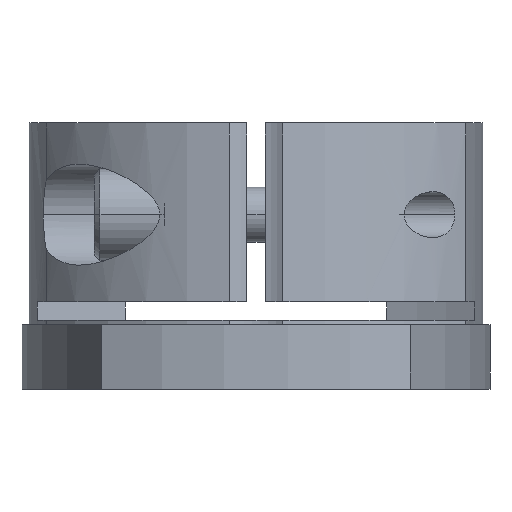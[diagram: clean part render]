
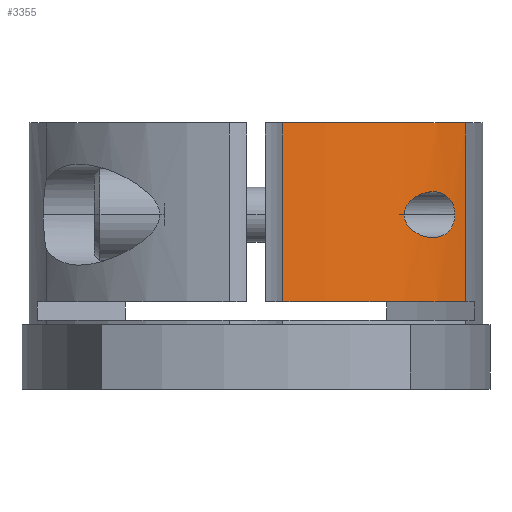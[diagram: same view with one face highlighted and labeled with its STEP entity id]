
A CAD part, front view. The second image highlights one B-rep face of the part: STEP entity #3355.
In plain terms, the highlighted cylindrical face has radius 28.5 mm (diameter 57 mm), a partial arc.
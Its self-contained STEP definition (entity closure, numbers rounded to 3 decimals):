
#535=CARTESIAN_POINT('',(21.679,-18.5,15.5));
#536=VERTEX_POINT('',#535);
#545=CARTESIAN_POINT('',(16.125,-23.5,15.5));
#546=VERTEX_POINT('',#545);
#547=CARTESIAN_POINT('',(16.125,-23.5,15.5));
#548=CARTESIAN_POINT('',(16.125,-23.5,15.686));
#549=CARTESIAN_POINT('',(16.155,-23.479,15.866));
#550=CARTESIAN_POINT('',(16.264,-23.404,16.21));
#551=CARTESIAN_POINT('',(16.343,-23.349,16.372));
#552=CARTESIAN_POINT('',(16.535,-23.214,16.674));
#553=CARTESIAN_POINT('',(16.647,-23.133,16.812));
#554=CARTESIAN_POINT('',(16.888,-22.958,17.061));
#555=CARTESIAN_POINT('',(17.016,-22.863,17.172));
#556=CARTESIAN_POINT('',(17.456,-22.532,17.504));
#557=CARTESIAN_POINT('',(17.819,-22.247,17.692));
#558=CARTESIAN_POINT('',(18.372,-21.789,17.878));
#559=CARTESIAN_POINT('',(18.558,-21.631,17.924));
#560=CARTESIAN_POINT('',(18.922,-21.314,17.985));
#561=CARTESIAN_POINT('',(19.099,-21.155,18.0));
#562=CARTESIAN_POINT('',(19.423,-20.858,18.0));
#563=CARTESIAN_POINT('',(19.583,-20.708,17.988));
#564=CARTESIAN_POINT('',(19.902,-20.401,17.932));
#565=CARTESIAN_POINT('',(20.061,-20.245,17.889));
#566=CARTESIAN_POINT('',(20.368,-19.936,17.768));
#567=CARTESIAN_POINT('',(20.516,-19.784,17.691));
#568=CARTESIAN_POINT('',(20.791,-19.494,17.503));
#569=CARTESIAN_POINT('',(20.918,-19.357,17.393));
#570=CARTESIAN_POINT('',(21.125,-19.132,17.167));
#571=CARTESIAN_POINT('',(21.213,-19.033,17.051));
#572=CARTESIAN_POINT('',(21.373,-18.853,16.791));
#573=CARTESIAN_POINT('',(21.444,-18.773,16.647));
#574=CARTESIAN_POINT('',(21.56,-18.64,16.341));
#575=CARTESIAN_POINT('',(21.605,-18.587,16.177));
#576=CARTESIAN_POINT('',(21.665,-18.517,15.841));
#577=CARTESIAN_POINT('',(21.679,-18.5,15.669));
#578=CARTESIAN_POINT('',(21.679,-18.5,15.5));
#579=B_SPLINE_CURVE_WITH_KNOTS('',3,(#547,#548,#549,#550,#551,#552,#553,#554,#555,#556,#557,#558,#559,#560,#561,#562,#563,#564,#565,#566,#567,#568,#569,#570,#571,#572,#573,#574,#575,#576,#577,#578),.UNSPECIFIED.,.F.,.U.,(4,2,2,2,2,2,2,2,2,2,2,2,2,2,2,4),(9.511,10.068,10.625,11.182,11.739,13.112,13.798,14.485,15.115,15.746,16.377,17.007,17.515,18.023,18.531,19.039),.UNSPECIFIED.);
#580=EDGE_CURVE('',#546,#536,#579,.T.);
#2267=CARTESIAN_POINT('',(22.845,-17.039,25.5));
#2268=VERTEX_POINT('',#2267);
#2276=CARTESIAN_POINT('',(22.845,-17.039,6.0));
#2277=VERTEX_POINT('',#2276);
#2278=CARTESIAN_POINT('',(22.845,-17.039,6.0));
#2279=DIRECTION('',(0.0,0.0,1.0));
#2280=VECTOR('',#2279,19.5);
#2281=LINE('',#2278,#2280);
#2282=EDGE_CURVE('',#2277,#2268,#2281,.T.);
#2436=CARTESIAN_POINT('',(21.679,-18.5,15.5));
#2437=CARTESIAN_POINT('',(21.679,-18.5,15.347));
#2438=CARTESIAN_POINT('',(21.667,-18.514,15.19));
#2439=CARTESIAN_POINT('',(21.617,-18.573,14.881));
#2440=CARTESIAN_POINT('',(21.58,-18.617,14.73));
#2441=CARTESIAN_POINT('',(21.482,-18.729,14.443));
#2442=CARTESIAN_POINT('',(21.422,-18.798,14.307));
#2443=CARTESIAN_POINT('',(21.286,-18.952,14.059));
#2444=CARTESIAN_POINT('',(21.21,-19.036,13.947));
#2445=CARTESIAN_POINT('',(21.016,-19.252,13.703));
#2446=CARTESIAN_POINT('',(20.884,-19.395,13.574));
#2447=CARTESIAN_POINT('',(20.597,-19.699,13.357));
#2448=CARTESIAN_POINT('',(20.441,-19.861,13.268));
#2449=CARTESIAN_POINT('',(20.117,-20.19,13.128));
#2450=CARTESIAN_POINT('',(19.947,-20.357,13.078));
#2451=CARTESIAN_POINT('',(19.606,-20.686,13.014));
#2452=CARTESIAN_POINT('',(19.434,-20.847,13.0));
#2453=CARTESIAN_POINT('',(19.081,-21.172,13.0));
#2454=CARTESIAN_POINT('',(18.883,-21.348,13.018));
#2455=CARTESIAN_POINT('',(18.481,-21.697,13.093));
#2456=CARTESIAN_POINT('',(18.276,-21.87,13.149));
#2457=CARTESIAN_POINT('',(17.667,-22.37,13.377));
#2458=CARTESIAN_POINT('',(17.27,-22.675,13.605));
#2459=CARTESIAN_POINT('',(16.729,-23.075,14.085));
#2460=CARTESIAN_POINT('',(16.521,-23.224,14.321));
#2461=CARTESIAN_POINT('',(16.293,-23.384,14.732));
#2462=CARTESIAN_POINT('',(16.231,-23.426,14.878));
#2463=CARTESIAN_POINT('',(16.147,-23.485,15.183));
#2464=CARTESIAN_POINT('',(16.125,-23.5,15.341));
#2465=CARTESIAN_POINT('',(16.125,-23.5,15.5));
#2466=B_SPLINE_CURVE_WITH_KNOTS('',3,(#2436,#2437,#2438,#2439,#2440,#2441,#2442,#2443,#2444,#2445,#2446,#2447,#2448,#2449,#2450,#2451,#2452,#2453,#2454,#2455,#2456,#2457,#2458,#2459,#2460,#2461,#2462,#2463,#2464,#2465),.UNSPECIFIED.,.F.,.U.,(4,2,2,2,2,2,2,2,2,2,2,2,2,2,4),(0.0,0.46,0.921,1.381,1.842,2.52,3.198,3.875,4.553,5.315,6.077,7.601,8.556,9.033,9.511),.UNSPECIFIED.);
#2467=EDGE_CURVE('',#536,#546,#2466,.T.);
#2535=CARTESIAN_POINT('',(2.935,-28.348,6.0));
#2536=VERTEX_POINT('',#2535);
#2544=CARTESIAN_POINT('',(2.935,-28.348,25.5));
#2545=VERTEX_POINT('',#2544);
#2546=CARTESIAN_POINT('',(2.935,-28.348,25.5));
#2547=DIRECTION('',(0.0,0.0,-1.0));
#2548=VECTOR('',#2547,19.5);
#2549=LINE('',#2546,#2548);
#2550=EDGE_CURVE('',#2545,#2536,#2549,.T.);
#2906=CARTESIAN_POINT('',(0.,0.,25.5));
#2907=DIRECTION('',(0.0,0.0,-1.0));
#2908=DIRECTION('',(1.0,0.0,0.0));
#2909=AXIS2_PLACEMENT_3D('',#2906,#2907,#2908);
#2910=CIRCLE('',#2909,28.5);
#2911=EDGE_CURVE('',#2268,#2545,#2910,.T.);
#3334=CARTESIAN_POINT('',(0.,0.,-3.5));
#3335=DIRECTION('',(0.0,0.0,1.0));
#3336=DIRECTION('',(1.0,0.0,0.0));
#3337=AXIS2_PLACEMENT_3D('',#3334,#3335,#3336);
#3338=CYLINDRICAL_SURFACE('',#3337,28.5);
#3339=ORIENTED_EDGE('',*,*,#2550,.T.);
#3340=CARTESIAN_POINT('',(0.,0.,6.0));
#3341=DIRECTION('',(0.0,0.0,1.0));
#3342=DIRECTION('',(1.0,0.0,0.0));
#3343=AXIS2_PLACEMENT_3D('',#3340,#3341,#3342);
#3344=CIRCLE('',#3343,28.5);
#3345=EDGE_CURVE('',#2536,#2277,#3344,.T.);
#3346=ORIENTED_EDGE('',*,*,#3345,.T.);
#3347=ORIENTED_EDGE('',*,*,#2282,.T.);
#3348=ORIENTED_EDGE('',*,*,#2911,.T.);
#3349=EDGE_LOOP('',(#3339,#3346,#3347,#3348));
#3350=FACE_OUTER_BOUND('',#3349,.T.);
#3351=ORIENTED_EDGE('',*,*,#2467,.T.);
#3352=ORIENTED_EDGE('',*,*,#580,.T.);
#3353=EDGE_LOOP('',(#3351,#3352));
#3354=FACE_BOUND('',#3353,.T.);
#3355=ADVANCED_FACE('',(#3350,#3354),#3338,.T.);
